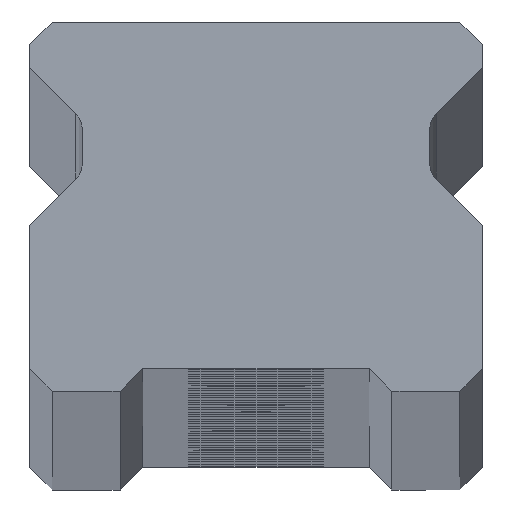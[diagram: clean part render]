
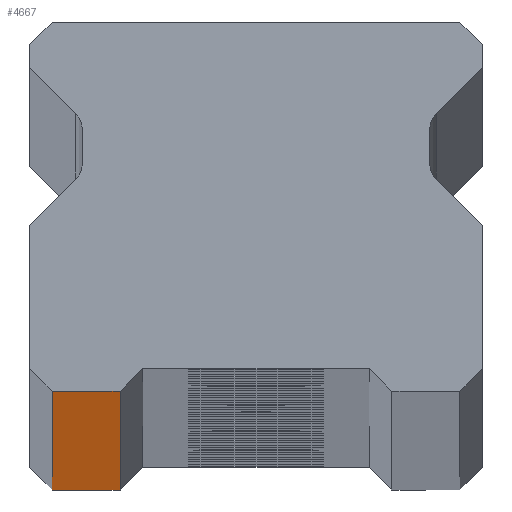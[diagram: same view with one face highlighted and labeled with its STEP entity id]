
A CAD part, top view. The second image highlights one B-rep face of the part: STEP entity #4667.
In plain terms, the highlighted planar face has unit normal (0, -1, 0).
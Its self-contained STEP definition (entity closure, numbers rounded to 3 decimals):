
#326 = VERTEX_POINT ( 'NONE', #6154 ) ;
#791 = ORIENTED_EDGE ( 'NONE', *, *, #4563, .T. ) ;
#806 = VECTOR ( 'NONE', #6297, 1000. ) ;
#1130 = EDGE_LOOP ( 'NONE', ( #791, #1860, #1828, #1238 ) ) ;
#1238 = ORIENTED_EDGE ( 'NONE', *, *, #1804, .T. ) ;
#1395 = VERTEX_POINT ( 'NONE', #2148 ) ;
#1414 = LINE ( 'NONE', #6911, #806 ) ;
#1804 = EDGE_CURVE ( 'NONE', #4129, #326, #6400, .T. ) ;
#1828 = ORIENTED_EDGE ( 'NONE', *, *, #2058, .F. ) ;
#1860 = ORIENTED_EDGE ( 'NONE', *, *, #3621, .T. ) ;
#1907 = CARTESIAN_POINT ( 'NONE',  ( 10., 0., -1250. ) ) ;
#1964 = FACE_OUTER_BOUND ( 'NONE', #1130, .T. ) ;
#2058 = EDGE_CURVE ( 'NONE', #4129, #2663, #5608, .T. ) ;
#2148 = CARTESIAN_POINT ( 'NONE',  ( -6., 0., -1250. ) ) ;
#2331 = AXIS2_PLACEMENT_3D ( 'NONE', #3160, #5445, #4863 ) ;
#2663 = VERTEX_POINT ( 'NONE', #3902 ) ;
#2684 = DIRECTION ( 'NONE',  ( 1., 0., 0. ) ) ;
#2781 = VECTOR ( 'NONE', #2684, 1000. ) ;
#2937 = VECTOR ( 'NONE', #6379, 1000. ) ;
#3160 = CARTESIAN_POINT ( 'NONE',  ( 10., 0., 1250. ) ) ;
#3277 = CARTESIAN_POINT ( 'NONE',  ( -9., 0., 1250. ) ) ;
#3621 = EDGE_CURVE ( 'NONE', #1395, #2663, #1414, .T. ) ;
#3902 = CARTESIAN_POINT ( 'NONE',  ( -6., 0., 1250. ) ) ;
#4129 = VERTEX_POINT ( 'NONE', #6127 ) ;
#4456 = LINE ( 'NONE', #1907, #2937 ) ;
#4563 = EDGE_CURVE ( 'NONE', #326, #1395, #4456, .T. ) ;
#4667 = ADVANCED_FACE ( 'NONE', ( #1964 ), #6551, .F. ) ;
#4863 = DIRECTION ( 'NONE',  ( -1., 0., 0. ) ) ;
#5445 = DIRECTION ( 'NONE',  ( 0., 1., 0. ) ) ;
#5608 = LINE ( 'NONE', #6038, #2781 ) ;
#5991 = DIRECTION ( 'NONE',  ( 0., 0., -1. ) ) ;
#6038 = CARTESIAN_POINT ( 'NONE',  ( 10., 0., 1250. ) ) ;
#6127 = CARTESIAN_POINT ( 'NONE',  ( -9., 0., 1250. ) ) ;
#6154 = CARTESIAN_POINT ( 'NONE',  ( -9., 0., -1250. ) ) ;
#6297 = DIRECTION ( 'NONE',  ( 0., 0., 1. ) ) ;
#6379 = DIRECTION ( 'NONE',  ( 1., 0., 0. ) ) ;
#6400 = LINE ( 'NONE', #3277, #6929 ) ;
#6551 = PLANE ( 'NONE',  #2331 ) ;
#6911 = CARTESIAN_POINT ( 'NONE',  ( -6., 0., -1250. ) ) ;
#6929 = VECTOR ( 'NONE', #5991, 1000. ) ;
